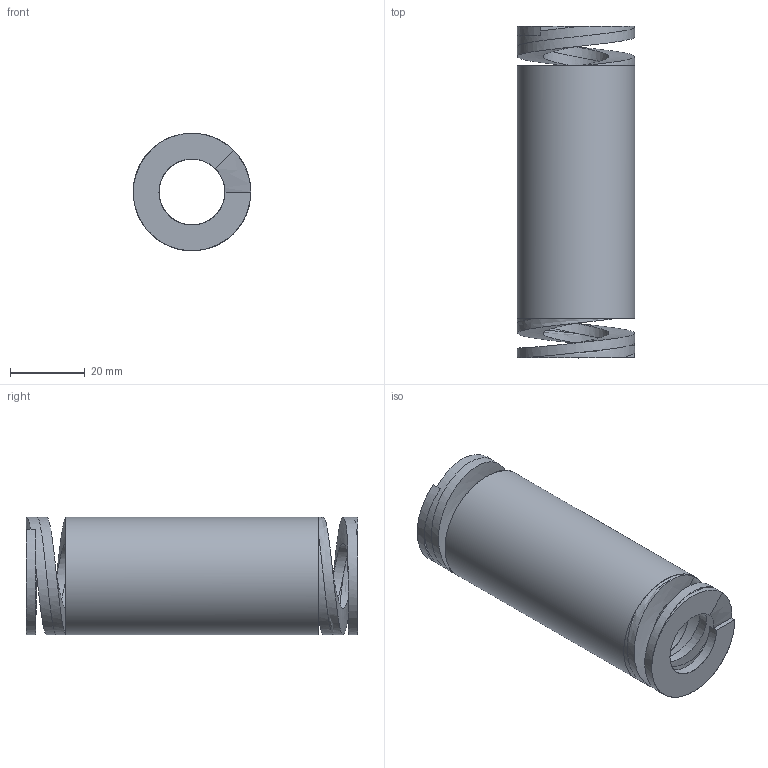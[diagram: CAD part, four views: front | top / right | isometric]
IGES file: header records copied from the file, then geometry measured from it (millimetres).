
Global section: file name: 3S32090; native system: Autodesk Inventor 2026; preprocessor: unknown; author: J. Iwanek; date: 20261007.114311; units: millimetre
Bounding box: 31.51 x 89 x 31.51 mm (x, y, z)
Volume: 43144.3 mm3; surface area: 16282.6 mm2
Topology: 1 solids, 1 shells, 22 faces, 74 edges, 46 vertices
Faces by surface type: bspline 22
